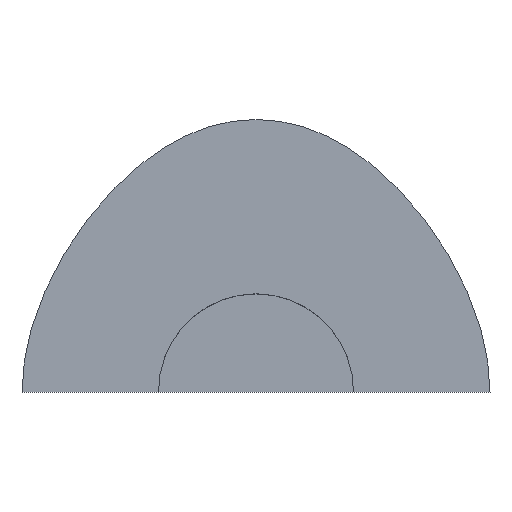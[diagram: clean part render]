
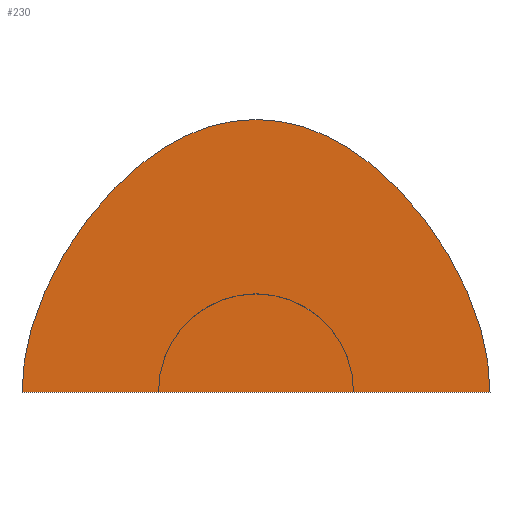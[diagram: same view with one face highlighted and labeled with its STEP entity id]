
A CAD part, top view. The second image highlights one B-rep face of the part: STEP entity #230.
In plain terms, the highlighted planar face has unit normal (0, 0, 1).
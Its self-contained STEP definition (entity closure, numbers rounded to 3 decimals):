
#193=CARTESIAN_POINT('Axis2P3D Location',(0.,56.885,0.)) ;
#198=CARTESIAN_POINT('Line Origine',(0.,0.,0.)) ;
#202=CARTESIAN_POINT('Vertex',(-120.,0.,0.)) ;
#204=CARTESIAN_POINT('Vertex',(120.,0.,0.)) ;
#208=CARTESIAN_POINT('Control Point',(0.,140.,0.)) ;
#209=CARTESIAN_POINT('Control Point',(36.878,140.,0.)) ;
#210=CARTESIAN_POINT('Control Point',(71.488,118.829,0.)) ;
#211=CARTESIAN_POINT('Control Point',(103.829,76.488,0.)) ;
#212=CARTESIAN_POINT('Control Point',(120.,36.878,0.)) ;
#213=CARTESIAN_POINT('Control Point',(120.,0.,0.)) ;
#214=CARTESIAN_POINT('Vertex',(0.,140.,0.)) ;
#218=CARTESIAN_POINT('Control Point',(0.,140.,0.)) ;
#219=CARTESIAN_POINT('Control Point',(-36.878,140.,0.)) ;
#220=CARTESIAN_POINT('Control Point',(-71.488,118.829,0.)) ;
#221=CARTESIAN_POINT('Control Point',(-103.829,76.488,0.)) ;
#222=CARTESIAN_POINT('Control Point',(-120.,36.878,0.)) ;
#223=CARTESIAN_POINT('Control Point',(-120.,0.,0.)) ;
#194=DIRECTION('Axis2P3D Direction',(0.,0.,1.)) ;
#195=DIRECTION('Axis2P3D XDirection',(1.,0.,0.)) ;
#199=DIRECTION('Vector Direction',(1.,0.,0.)) ;
#196=AXIS2_PLACEMENT_3D('Plane Axis2P3D',#193,#194,#195) ;
#226=ORIENTED_EDGE('',*,*,#206,.T.) ;
#227=ORIENTED_EDGE('',*,*,#216,.T.) ;
#228=ORIENTED_EDGE('',*,*,#224,.T.) ;
#200=VECTOR('Line Direction',#199,1.) ;
#230=ADVANCED_FACE('Fill.1',(#229),#197,.T.) ;
#207=B_SPLINE_CURVE_WITH_KNOTS('',5,(#208,#209,#210,#211,#212,#213),.UNSPECIFIED.,.F.,.U.,(6,6),(0.,184.391),.UNSPECIFIED.) ;
#217=B_SPLINE_CURVE_WITH_KNOTS('',5,(#218,#219,#220,#221,#222,#223),.UNSPECIFIED.,.F.,.U.,(6,6),(0.,184.391),.UNSPECIFIED.) ;
#206=EDGE_CURVE('',#203,#205,#201,.T.) ;
#216=EDGE_CURVE('',#205,#215,#207,.F.) ;
#224=EDGE_CURVE('',#215,#203,#217,.T.) ;
#225=EDGE_LOOP('',(#226,#227,#228)) ;
#229=FACE_OUTER_BOUND('',#225,.T.) ;
#201=LINE('Line',#198,#200) ;
#197=PLANE('',#196) ;
#203=VERTEX_POINT('',#202) ;
#205=VERTEX_POINT('',#204) ;
#215=VERTEX_POINT('',#214) ;
